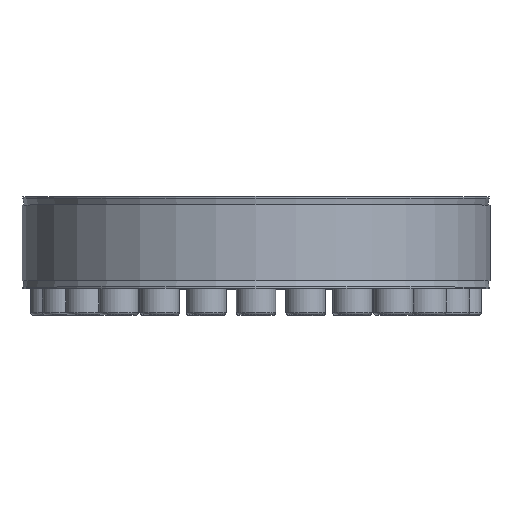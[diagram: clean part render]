
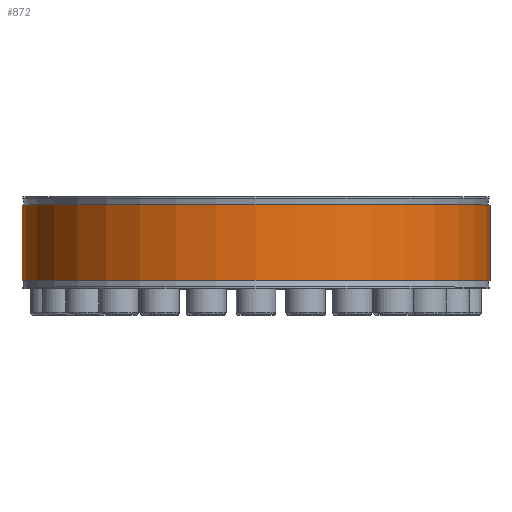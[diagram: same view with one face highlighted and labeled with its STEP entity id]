
A CAD part, top view. The second image highlights one B-rep face of the part: STEP entity #872.
In plain terms, the highlighted cylindrical face has radius 142.5 mm (diameter 285 mm), a partial arc.
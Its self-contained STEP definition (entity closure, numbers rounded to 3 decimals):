
#872 = ADVANCED_FACE( '', ( #1792 ), #1793, .T. );
#1792 = FACE_OUTER_BOUND( '', #3577, .T. );
#1793 = CYLINDRICAL_SURFACE( '', #3578, 142.5 );
#3577 = EDGE_LOOP( '', ( #5450, #5451, #5452, #5453 ) );
#3578 = AXIS2_PLACEMENT_3D( '', #5454, #5455, #5456 );
#5450 = ORIENTED_EDGE( '', *, *, #9567, .F. );
#5451 = ORIENTED_EDGE( '', *, *, #9568, .T. );
#5452 = ORIENTED_EDGE( '', *, *, #9569, .T. );
#5453 = ORIENTED_EDGE( '', *, *, #9570, .F. );
#5454 = CARTESIAN_POINT( '', ( 0., -60., 0. ) );
#5455 = DIRECTION( '', ( 0., -1., 0. ) );
#5456 = DIRECTION( '', ( 0., 0., 1. ) );
#9567 = EDGE_CURVE( '', #10692, #10693, #10694, .F. );
#9568 = EDGE_CURVE( '', #10692, #10695, #10696, .T. );
#9569 = EDGE_CURVE( '', #10695, #10697, #10698, .F. );
#9570 = EDGE_CURVE( '', #10693, #10697, #10699, .T. );
#10692 = VERTEX_POINT( '', #12368 );
#10693 = VERTEX_POINT( '', #12369 );
#10694 = LINE( '', #12370, #12371 );
#10695 = VERTEX_POINT( '', #12372 );
#10696 = CIRCLE( '', #12373, 142.5 );
#10697 = VERTEX_POINT( '', #12374 );
#10698 = LINE( '', #12375, #12376 );
#10699 = CIRCLE( '', #12377, 142.5 );
#12368 = CARTESIAN_POINT( '', ( 2.375, 23., -142.48 ) );
#12369 = CARTESIAN_POINT( '', ( 2.375, -23., -142.48 ) );
#12370 = CARTESIAN_POINT( '', ( 2.375, -60., -142.48 ) );
#12371 = VECTOR( '', #16041, 1000. );
#12372 = CARTESIAN_POINT( '', ( -2.375, 23., -142.48 ) );
#12373 = AXIS2_PLACEMENT_3D( '', #16042, #16043, #16044 );
#12374 = CARTESIAN_POINT( '', ( -2.375, -23., -142.48 ) );
#12375 = CARTESIAN_POINT( '', ( -2.375, -60., -142.48 ) );
#12376 = VECTOR( '', #16045, 1000. );
#12377 = AXIS2_PLACEMENT_3D( '', #16046, #16047, #16048 );
#16041 = DIRECTION( '', ( 0., 1., 0. ) );
#16042 = CARTESIAN_POINT( '', ( 0., 23., 0. ) );
#16043 = DIRECTION( '', ( 0., -1., 0. ) );
#16044 = DIRECTION( '', ( 0., 0., -1. ) );
#16045 = DIRECTION( '', ( 0., 1., 0. ) );
#16046 = CARTESIAN_POINT( '', ( 0., -23., 0. ) );
#16047 = DIRECTION( '', ( 0., -1., 0. ) );
#16048 = DIRECTION( '', ( 0., 0., -1. ) );
